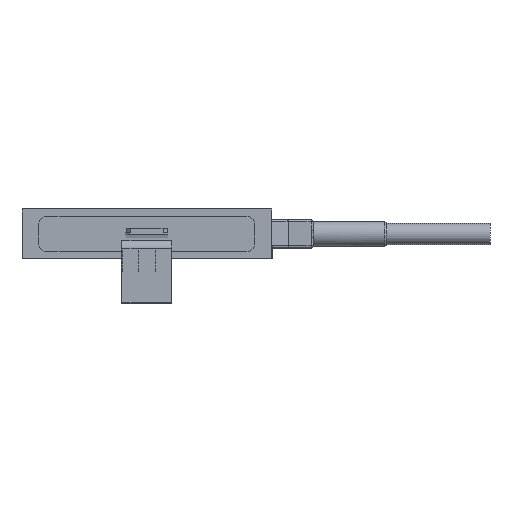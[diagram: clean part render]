
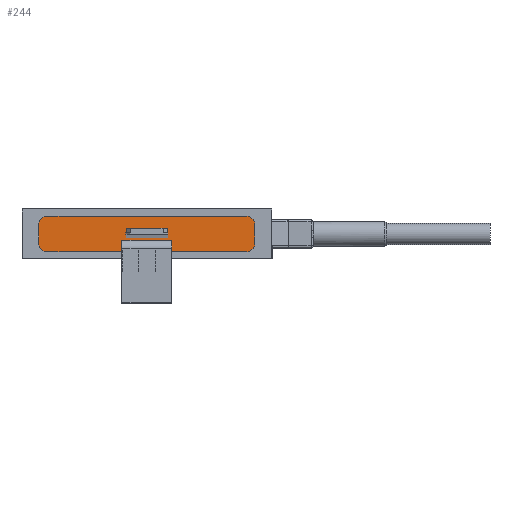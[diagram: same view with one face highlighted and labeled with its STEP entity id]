
A CAD part, top view. The second image highlights one B-rep face of the part: STEP entity #244.
In plain terms, the highlighted planar face has unit normal (0, 0, 1).
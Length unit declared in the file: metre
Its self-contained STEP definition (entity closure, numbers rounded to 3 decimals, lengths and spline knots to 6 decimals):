
#244 = ADVANCED_FACE( '', ( #429 ), #430, .T. );
#429 = FACE_OUTER_BOUND( '', #817, .T. );
#430 = PLANE( '', #818 );
#817 = EDGE_LOOP( '', ( #1440, #1441, #1442, #1443, #1444, #1445, #1446, #1447 ) );
#818 = AXIS2_PLACEMENT_3D( '', #1448, #1449, #1450 );
#1440 = ORIENTED_EDGE( '', *, *, #1854, .T. );
#1441 = ORIENTED_EDGE( '', *, *, #1855, .T. );
#1442 = ORIENTED_EDGE( '', *, *, #1856, .T. );
#1443 = ORIENTED_EDGE( '', *, *, #1857, .T. );
#1444 = ORIENTED_EDGE( '', *, *, #1858, .T. );
#1445 = ORIENTED_EDGE( '', *, *, #1859, .T. );
#1446 = ORIENTED_EDGE( '', *, *, #1860, .T. );
#1447 = ORIENTED_EDGE( '', *, *, #1861, .T. );
#1448 = CARTESIAN_POINT( '', ( -0.024, 0.00225, 0.0149 ) );
#1449 = DIRECTION( '', ( 0., 0., 1. ) );
#1450 = DIRECTION( '', ( 1., 0., 0. ) );
#1854 = EDGE_CURVE( '', #2217, #2218, #2219, .T. );
#1855 = EDGE_CURVE( '', #2218, #2220, #2221, .T. );
#1856 = EDGE_CURVE( '', #2220, #2222, #2223, .T. );
#1857 = EDGE_CURVE( '', #2222, #2224, #2225, .T. );
#1858 = EDGE_CURVE( '', #2224, #2226, #2227, .T. );
#1859 = EDGE_CURVE( '', #2226, #2228, #2229, .T. );
#1860 = EDGE_CURVE( '', #2228, #2230, #2231, .T. );
#1861 = EDGE_CURVE( '', #2230, #2217, #2232, .T. );
#2217 = VERTEX_POINT( '', #2827 );
#2218 = VERTEX_POINT( '', #2828 );
#2219 = CIRCLE( '', #2829, 0.002 );
#2220 = VERTEX_POINT( '', #2830 );
#2221 = LINE( '', #2831, #2832 );
#2222 = VERTEX_POINT( '', #2833 );
#2223 = CIRCLE( '', #2834, 0.002 );
#2224 = VERTEX_POINT( '', #2835 );
#2225 = LINE( '', #2836, #2837 );
#2226 = VERTEX_POINT( '', #2838 );
#2227 = CIRCLE( '', #2839, 0.002 );
#2228 = VERTEX_POINT( '', #2840 );
#2229 = LINE( '', #2841, #2842 );
#2230 = VERTEX_POINT( '', #2843 );
#2231 = CIRCLE( '', #2844, 0.002 );
#2232 = LINE( '', #2845, #2846 );
#2827 = CARTESIAN_POINT( '', ( -0.024, 0.00425, 0.0149 ) );
#2828 = CARTESIAN_POINT( '', ( -0.026, 0.00225, 0.0149 ) );
#2829 = AXIS2_PLACEMENT_3D( '', #3221, #3222, #3223 );
#2830 = CARTESIAN_POINT( '', ( -0.026, -0.00225, 0.0149 ) );
#2831 = CARTESIAN_POINT( '', ( -0.026, 0.00225, 0.0149 ) );
#2832 = VECTOR( '', #3224, 1. );
#2833 = CARTESIAN_POINT( '', ( -0.024, -0.00425, 0.0149 ) );
#2834 = AXIS2_PLACEMENT_3D( '', #3225, #3226, #3227 );
#2835 = CARTESIAN_POINT( '', ( 0.024, -0.00425, 0.0149 ) );
#2836 = CARTESIAN_POINT( '', ( -0.024, -0.00425, 0.0149 ) );
#2837 = VECTOR( '', #3228, 1. );
#2838 = CARTESIAN_POINT( '', ( 0.026, -0.00225, 0.0149 ) );
#2839 = AXIS2_PLACEMENT_3D( '', #3229, #3230, #3231 );
#2840 = CARTESIAN_POINT( '', ( 0.026, 0.00225, 0.0149 ) );
#2841 = CARTESIAN_POINT( '', ( 0.026, -0.00225, 0.0149 ) );
#2842 = VECTOR( '', #3232, 1. );
#2843 = CARTESIAN_POINT( '', ( 0.024, 0.00425, 0.0149 ) );
#2844 = AXIS2_PLACEMENT_3D( '', #3233, #3234, #3235 );
#2845 = CARTESIAN_POINT( '', ( 0.024, 0.00425, 0.0149 ) );
#2846 = VECTOR( '', #3236, 1. );
#3221 = CARTESIAN_POINT( '', ( -0.024, 0.00225, 0.0149 ) );
#3222 = DIRECTION( '', ( 0., 0., 1. ) );
#3223 = DIRECTION( '', ( 1., 0., 0. ) );
#3224 = DIRECTION( '', ( 0., -1., 0. ) );
#3225 = CARTESIAN_POINT( '', ( -0.024, -0.00225, 0.0149 ) );
#3226 = DIRECTION( '', ( 0., 0., 1. ) );
#3227 = DIRECTION( '', ( 1., 0., 0. ) );
#3228 = DIRECTION( '', ( 1., 0., 0. ) );
#3229 = CARTESIAN_POINT( '', ( 0.024, -0.00225, 0.0149 ) );
#3230 = DIRECTION( '', ( 0., 0., 1. ) );
#3231 = DIRECTION( '', ( -1., 0., 0. ) );
#3232 = DIRECTION( '', ( 0., 1., 0. ) );
#3233 = CARTESIAN_POINT( '', ( 0.024, 0.00225, 0.0149 ) );
#3234 = DIRECTION( '', ( 0., 0., 1. ) );
#3235 = DIRECTION( '', ( -1., 0., 0. ) );
#3236 = DIRECTION( '', ( -1., 0., 0. ) );
